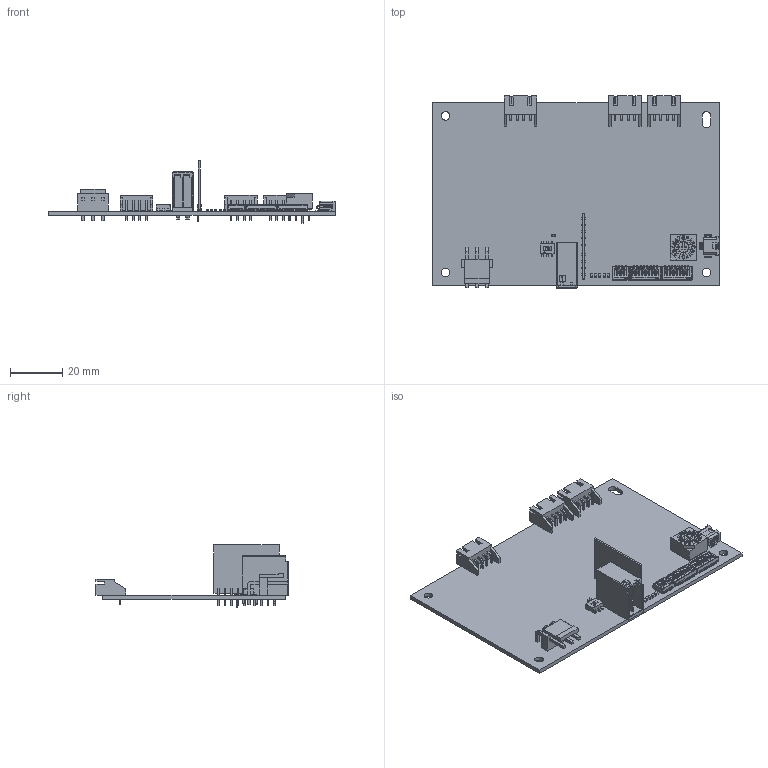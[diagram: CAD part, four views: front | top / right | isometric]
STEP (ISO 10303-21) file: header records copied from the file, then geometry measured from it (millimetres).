
FILE_DESCRIPTION (( 'STEP AP203' ), '1' );
FILE_NAME ('RI-C5-2A_260205.STEP', '2026-02-05T06:56:37', ( '' ), ( '' ), 'SwSTEP 2.0', 'SolidWorks 2022', '' );
FILE_SCHEMA (( 'CONFIG_CONTROL_DESIGN' ));
Length unit declared in the file: millimetre
Products named in the file (23): RI-C5-2A_260205; LED_SML-310YT.STEP; CHS-04-J-body.STEP; _2_pole_s_4.STEP; PCB_RICU_D-1x_230724.STEP; CHS-slider.STEP; コネクタ_B3PS-VH.STEP; CHS-04TA.STEP; ロータリスイッチ_S-1010A_p01.STEP; AS_PCB_RI-CU-2A_250129.STEP; レセプタクル_MQ172X-4PA-(66).STEP; ロータリスイッチ_S-1010A_0(ﾃﾞﾌｫﾙﾄ).STEP; _CHS_08_J_body_2.STEP; LED_SML-310MT.STEP; c-1-1827583-2-c-3d.STEP; _CAS_c_22B_2.STEP; ロータリスイッチ_S-1010A_p02.STEP; S4B-XH-A.STEP; ディップスイッチ_CHS-08TA.STEP; PCB_5545-71_171121.STEP; ディップスイッチ_CAS_220TB.STEP; _CHS_slider_4.STEP; LED_SML-310LT.STEP
Assembly tree (38 placements, depth 4):
  RI-C5-2A_260205
    AS_PCB_RI-CU-2A_250129.STEP
      ディップスイッチ_CAS_220TB.STEP
        _CAS_c_22B_2.STEP
        _2_pole_s_4.STEP
      ディップスイッチ_CHS-08TA.STEP  x2
        _CHS_08_J_body_2.STEP
        _CHS_slider_4.STEP
      CHS-04TA.STEP
        CHS-slider.STEP  x4
        CHS-04-J-body.STEP
      ロータリスイッチ_S-1010A_0(ﾃﾞﾌｫﾙﾄ).STEP
        ロータリスイッチ_S-1010A_p01.STEP
        ロータリスイッチ_S-1010A_p02.STEP
      PCB_RICU_D-1x_230724.STEP
      コネクタ_B3PS-VH.STEP
      c-1-1827583-2-c-3d.STEP
      レセプタクル_MQ172X-4PA-(66).STEP
      LED_SML-310MT.STEP  x4
      PCB_5545-71_171121.STEP
      LED_SML-310YT.STEP
      LED_SML-310LT.STEP
      S4B-XH-A.STEP  x3
Bounding box: 110 x 73.61 x 23.8 mm (x, y, z)
Volume: 16551.2 mm3; surface area: 23507.2 mm2
Topology: 46 solids, 55 shells, 3194 faces, 8832 edges, 5850 vertices
Faces by surface type: plane 2352, cylinder 725, bspline 97, torus 16, cone 4
Entity records: 80464 total; most frequent: CARTESIAN_POINT 23856, ORIENTED_EDGE 12114, DIRECTION 9401, EDGE_CURVE 6184, VERTEX_POINT 4098, LINE 3995, VECTOR 3995, AXIS2_PLACEMENT_3D 2703
